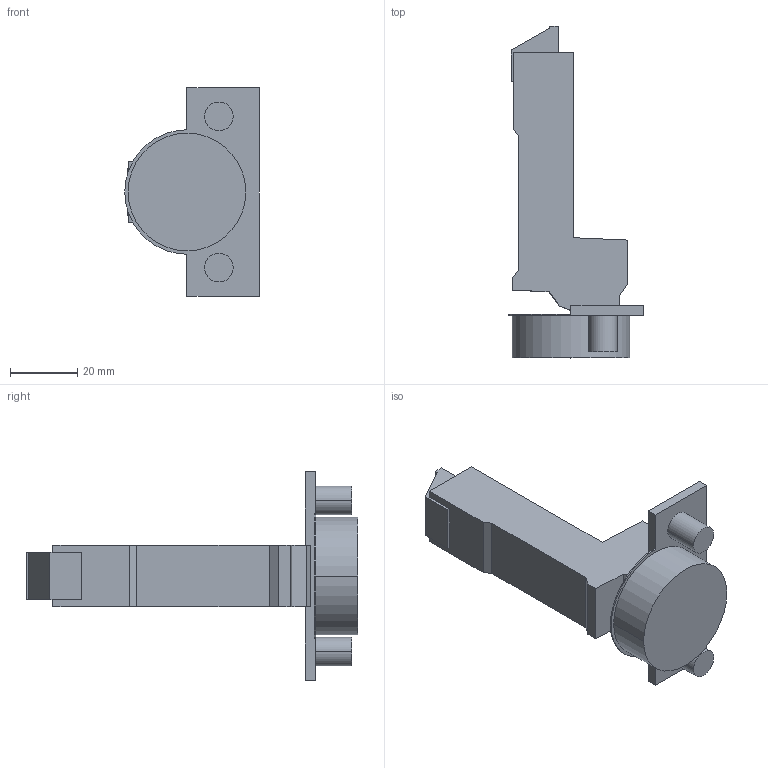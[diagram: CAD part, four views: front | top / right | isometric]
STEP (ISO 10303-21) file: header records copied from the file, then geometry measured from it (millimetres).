
FILE_DESCRIPTION (( 'STEP AP214' ), '1' );
FILE_NAME ('Scharnier TS Click-on 95° B_BB, K19_Dübel.step', '2018-10-02T12:11:45', ( '' ), ( '' ), 'SwSTEP 2.0', 'SolidWorks 2017', '' );
FILE_SCHEMA (( 'AUTOMOTIVE_DESIGN' ));
Length unit declared in the file: millimetre
Products named in the file (1): Scharnier TS Click-on 95° B_BB, K19_Dübel
Bounding box: 40 x 98.7 x 62 mm (x, y, z)
Volume: 46430.3 mm3; surface area: 13134.4 mm2
Topology: 1 solids, 1 shells, 59 faces, 147 edges, 98 vertices
Faces by surface type: plane 41, cylinder 18
Entity records: 1791 total; most frequent: CARTESIAN_POINT 305, DIRECTION 303, ORIENTED_EDGE 294, EDGE_CURVE 147, VECTOR 111, LINE 111, VERTEX_POINT 98, AXIS2_PLACEMENT_3D 96
